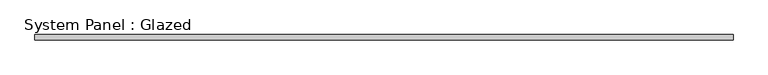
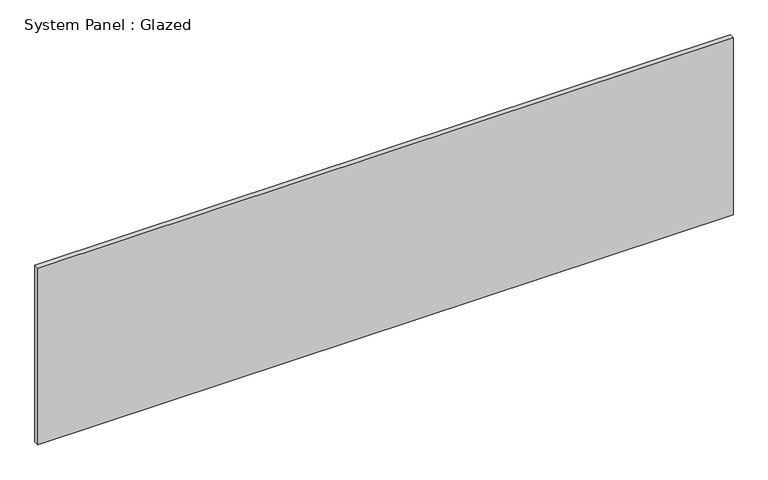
"""IFC4 building model written with IfcOpenShell, lengths in millimetres: plate geometry, System Panel : Glazed."""

from ifc_helpers import new_model, si_unit, origin, origin_with_axes, place, context, project, spatial, polyline, outline, extrude, source, transform, mapped, element, save


def system_panel_glazed_fdf392ff(model_context):
    return source(origin(), model_context, "Body", "SweptSolid", [
        extrude(outline(polyline([(1675.0, -49.5), (-1675.0, -49.5), (-1675.0, -24.5), (1675.0, -24.5), (1675.0, -49.5)])), origin_with_axes(), (0.0, 0.0, 1.0), 900.0),
    ])


if __name__ == "__main__":
    model = new_model("IFC4")
    model_context = context("Model", 3, world=origin())
    ifc_project = project(units=[si_unit("LENGTHUNIT", "METRE", prefix="MILLI")], contexts=[model_context])
    site = spatial("IfcSite", under=ifc_project)
    building = spatial("IfcBuilding", under=site)
    placement = place(None, origin())
    system_panel_glazed_shape = system_panel_glazed_fdf392ff(model_context)
    element("IfcPlate", 1, ObjectType="System Panel : Glazed", at=placement, inside=building, context=model_context, shape_type="MappedRepresentation", body=[
        mapped(system_panel_glazed_shape, transform((0.0, 0.0, 0.0), x_axis=(1.0, 0.0, 0.0), y_axis=(0.0, 1.0, 0.0), z_axis=(0.0, 0.0, 1.0))),
    ])
    save(model, "model.ifc")
